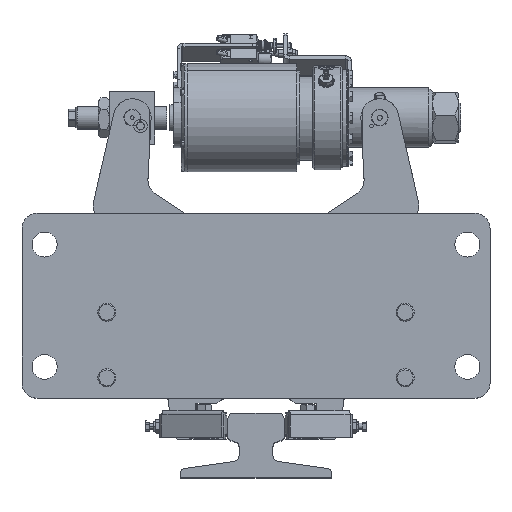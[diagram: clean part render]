
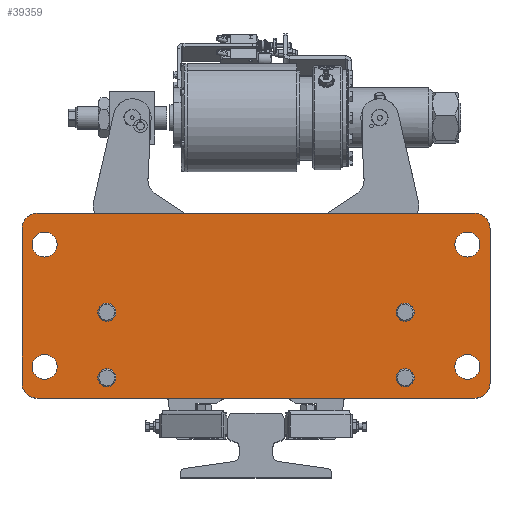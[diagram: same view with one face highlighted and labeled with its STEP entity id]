
A CAD part, top view. The second image highlights one B-rep face of the part: STEP entity #39359.
In plain terms, the highlighted planar face has unit normal (0, 0, 1).
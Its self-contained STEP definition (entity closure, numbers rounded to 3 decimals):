
#38417=DIRECTION('',(-1.,0.,0.));
#38418=VECTOR('',#38417,580.);
#38419=CARTESIAN_POINT('',(290.,0.,45.));
#38420=LINE('',#38419,#38418);
#38424=CARTESIAN_POINT('',(290.,225.,45.));
#38425=DIRECTION('',(0.,0.,1.));
#38426=DIRECTION('',(1.,0.,0.));
#38427=AXIS2_PLACEMENT_3D('',#38424,#38425,#38426);
#38432=CARTESIAN_POINT('',(290.,20.,45.));
#38433=DIRECTION('',(0.,0.,1.));
#38434=DIRECTION('',(0.,-1.,0.));
#38435=AXIS2_PLACEMENT_3D('',#38432,#38433,#38434);
#38440=CARTESIAN_POINT('',(-290.,20.,45.));
#38441=DIRECTION('',(0.,0.,1.));
#38442=DIRECTION('',(-1.,0.,0.));
#38443=AXIS2_PLACEMENT_3D('',#38440,#38441,#38442);
#38448=CARTESIAN_POINT('',(-290.,225.,45.));
#38449=DIRECTION('',(0.,0.,1.));
#38450=DIRECTION('',(0.,1.,0.));
#38451=AXIS2_PLACEMENT_3D('',#38448,#38449,#38450);
#38456=CARTESIAN_POINT('',(197.5,27.,45.));
#38457=DIRECTION('',(0.,0.,-1.));
#38458=DIRECTION('',(-1.,0.,0.));
#38459=AXIS2_PLACEMENT_3D('',#38456,#38457,#38458);
#38464=CARTESIAN_POINT('',(197.5,27.,45.));
#38465=DIRECTION('',(0.,0.,-1.));
#38466=DIRECTION('',(1.,0.,0.));
#38467=AXIS2_PLACEMENT_3D('',#38464,#38465,#38466);
#38472=CARTESIAN_POINT('',(197.5,114.,45.));
#38473=DIRECTION('',(0.,0.,-1.));
#38474=DIRECTION('',(-1.,0.,0.));
#38475=AXIS2_PLACEMENT_3D('',#38472,#38473,#38474);
#38480=CARTESIAN_POINT('',(197.5,114.,45.));
#38481=DIRECTION('',(0.,0.,-1.));
#38482=DIRECTION('',(1.,0.,0.));
#38483=AXIS2_PLACEMENT_3D('',#38480,#38481,#38482);
#38488=CARTESIAN_POINT('',(-197.5,27.,45.));
#38489=DIRECTION('',(0.,0.,-1.));
#38490=DIRECTION('',(-1.,0.,0.));
#38491=AXIS2_PLACEMENT_3D('',#38488,#38489,#38490);
#38496=CARTESIAN_POINT('',(-197.5,27.,45.));
#38497=DIRECTION('',(0.,0.,-1.));
#38498=DIRECTION('',(1.,0.,0.));
#38499=AXIS2_PLACEMENT_3D('',#38496,#38497,#38498);
#38504=CARTESIAN_POINT('',(-197.5,114.,45.));
#38505=DIRECTION('',(0.,0.,-1.));
#38506=DIRECTION('',(-1.,0.,0.));
#38507=AXIS2_PLACEMENT_3D('',#38504,#38505,#38506);
#38512=CARTESIAN_POINT('',(-197.5,114.,45.));
#38513=DIRECTION('',(0.,0.,-1.));
#38514=DIRECTION('',(1.,0.,0.));
#38515=AXIS2_PLACEMENT_3D('',#38512,#38513,#38514);
#38520=CARTESIAN_POINT('',(280.,41.5,45.));
#38521=DIRECTION('',(0.,0.,-1.));
#38522=DIRECTION('',(1.,0.,0.));
#38523=AXIS2_PLACEMENT_3D('',#38520,#38521,#38522);
#38528=CARTESIAN_POINT('',(280.,41.5,45.));
#38529=DIRECTION('',(0.,0.,-1.));
#38530=DIRECTION('',(-1.,0.,0.));
#38531=AXIS2_PLACEMENT_3D('',#38528,#38529,#38530);
#38536=CARTESIAN_POINT('',(-280.,41.5,45.));
#38537=DIRECTION('',(0.,0.,-1.));
#38538=DIRECTION('',(1.,0.,0.));
#38539=AXIS2_PLACEMENT_3D('',#38536,#38537,#38538);
#38544=CARTESIAN_POINT('',(-280.,41.5,45.));
#38545=DIRECTION('',(0.,0.,-1.));
#38546=DIRECTION('',(-1.,0.,0.));
#38547=AXIS2_PLACEMENT_3D('',#38544,#38545,#38546);
#38552=CARTESIAN_POINT('',(-280.,203.5,45.));
#38553=DIRECTION('',(0.,0.,-1.));
#38554=DIRECTION('',(1.,0.,0.));
#38555=AXIS2_PLACEMENT_3D('',#38552,#38553,#38554);
#38560=CARTESIAN_POINT('',(-280.,203.5,45.));
#38561=DIRECTION('',(0.,0.,-1.));
#38562=DIRECTION('',(-1.,0.,0.));
#38563=AXIS2_PLACEMENT_3D('',#38560,#38561,#38562);
#38568=CARTESIAN_POINT('',(280.,203.5,45.));
#38569=DIRECTION('',(0.,0.,-1.));
#38570=DIRECTION('',(1.,0.,0.));
#38571=AXIS2_PLACEMENT_3D('',#38568,#38569,#38570);
#38576=CARTESIAN_POINT('',(280.,203.5,45.));
#38577=DIRECTION('',(0.,0.,-1.));
#38578=DIRECTION('',(-1.,0.,0.));
#38579=AXIS2_PLACEMENT_3D('',#38576,#38577,#38578);
#38584=DIRECTION('',(1.,0.,0.));
#38585=VECTOR('',#38584,580.);
#38586=CARTESIAN_POINT('',(-290.,245.,45.));
#38587=LINE('',#38586,#38585);
#38843=DIRECTION('',(0.,1.,0.));
#38844=VECTOR('',#38843,205.);
#38845=CARTESIAN_POINT('',(-310.,20.,45.));
#38846=LINE('',#38845,#38844);
#38892=DIRECTION('',(0.,-1.,0.));
#38893=VECTOR('',#38892,205.);
#38894=CARTESIAN_POINT('',(310.,225.,45.));
#38895=LINE('',#38894,#38893);
#39165=CARTESIAN_POINT('',(-263.5,41.5,45.));
#39166=CARTESIAN_POINT('',(-296.5,41.5,45.));
#39167=VERTEX_POINT('',#39165);
#39168=VERTEX_POINT('',#39166);
#39179=CARTESIAN_POINT('',(296.5,203.5,45.));
#39180=CARTESIAN_POINT('',(263.5,203.5,45.));
#39181=VERTEX_POINT('',#39179);
#39182=VERTEX_POINT('',#39180);
#39192=CARTESIAN_POINT('',(185.5,114.,45.));
#39194=VERTEX_POINT('',#39192);
#39199=CARTESIAN_POINT('',(-310.,20.,45.));
#39200=CARTESIAN_POINT('',(-310.,225.,45.));
#39201=VERTEX_POINT('',#39199);
#39202=VERTEX_POINT('',#39200);
#39203=CARTESIAN_POINT('',(290.,0.,45.));
#39204=CARTESIAN_POINT('',(-290.,0.,45.));
#39205=VERTEX_POINT('',#39203);
#39206=VERTEX_POINT('',#39204);
#39213=CARTESIAN_POINT('',(310.,225.,45.));
#39214=CARTESIAN_POINT('',(290.,245.,45.));
#39215=VERTEX_POINT('',#39213);
#39216=VERTEX_POINT('',#39214);
#39217=CARTESIAN_POINT('',(-209.5,27.,45.));
#39218=CARTESIAN_POINT('',(-185.5,27.,45.));
#39219=VERTEX_POINT('',#39217);
#39220=VERTEX_POINT('',#39218);
#39223=CARTESIAN_POINT('',(-209.5,114.,45.));
#39224=VERTEX_POINT('',#39223);
#39225=CARTESIAN_POINT('',(-185.5,114.,45.));
#39226=VERTEX_POINT('',#39225);
#39232=CARTESIAN_POINT('',(310.,20.,45.));
#39234=VERTEX_POINT('',#39232);
#39235=CARTESIAN_POINT('',(-296.5,203.5,45.));
#39236=VERTEX_POINT('',#39235);
#39237=CARTESIAN_POINT('',(185.5,27.,45.));
#39238=VERTEX_POINT('',#39237);
#39239=CARTESIAN_POINT('',(209.5,114.,45.));
#39240=VERTEX_POINT('',#39239);
#39249=CARTESIAN_POINT('',(296.5,41.5,45.));
#39250=CARTESIAN_POINT('',(263.5,41.5,45.));
#39251=VERTEX_POINT('',#39249);
#39252=VERTEX_POINT('',#39250);
#39253=CARTESIAN_POINT('',(-290.,245.,45.));
#39254=VERTEX_POINT('',#39253);
#39255=CARTESIAN_POINT('',(209.5,27.,45.));
#39256=VERTEX_POINT('',#39255);
#39263=CARTESIAN_POINT('',(-263.5,203.5,45.));
#39264=VERTEX_POINT('',#39263);
#39289=CARTESIAN_POINT('',(0.,0.,45.));
#39290=DIRECTION('',(0.,0.,1.));
#39291=DIRECTION('',(1.,0.,0.));
#39292=AXIS2_PLACEMENT_3D('',#39289,#39290,#39291);
#39293=PLANE('',#39292);
#39295=ORIENTED_EDGE('',*,*,#39294,.T.);
#39297=ORIENTED_EDGE('',*,*,#39296,.F.);
#39299=ORIENTED_EDGE('',*,*,#39298,.T.);
#39301=ORIENTED_EDGE('',*,*,#39300,.F.);
#39302=ORIENTED_EDGE('',*,*,#39278,.T.);
#39304=ORIENTED_EDGE('',*,*,#39303,.F.);
#39306=ORIENTED_EDGE('',*,*,#39305,.T.);
#39308=ORIENTED_EDGE('',*,*,#39307,.F.);
#39309=EDGE_LOOP('',(#39295,#39297,#39299,#39301,#39302,#39304,#39306,#39308));
#39310=FACE_OUTER_BOUND('',#39309,.F.);
#39312=ORIENTED_EDGE('',*,*,#39311,.F.);
#39314=ORIENTED_EDGE('',*,*,#39313,.F.);
#39315=EDGE_LOOP('',(#39312,#39314));
#39316=FACE_BOUND('',#39315,.F.);
#39318=ORIENTED_EDGE('',*,*,#39317,.F.);
#39320=ORIENTED_EDGE('',*,*,#39319,.F.);
#39321=EDGE_LOOP('',(#39318,#39320));
#39322=FACE_BOUND('',#39321,.F.);
#39324=ORIENTED_EDGE('',*,*,#39323,.F.);
#39326=ORIENTED_EDGE('',*,*,#39325,.F.);
#39327=EDGE_LOOP('',(#39324,#39326));
#39328=FACE_BOUND('',#39327,.F.);
#39330=ORIENTED_EDGE('',*,*,#39329,.F.);
#39332=ORIENTED_EDGE('',*,*,#39331,.F.);
#39333=EDGE_LOOP('',(#39330,#39332));
#39334=FACE_BOUND('',#39333,.F.);
#39336=ORIENTED_EDGE('',*,*,#39335,.F.);
#39338=ORIENTED_EDGE('',*,*,#39337,.F.);
#39339=EDGE_LOOP('',(#39336,#39338));
#39340=FACE_BOUND('',#39339,.F.);
#39342=ORIENTED_EDGE('',*,*,#39341,.F.);
#39344=ORIENTED_EDGE('',*,*,#39343,.F.);
#39345=EDGE_LOOP('',(#39342,#39344));
#39346=FACE_BOUND('',#39345,.F.);
#39348=ORIENTED_EDGE('',*,*,#39347,.F.);
#39350=ORIENTED_EDGE('',*,*,#39349,.F.);
#39351=EDGE_LOOP('',(#39348,#39350));
#39352=FACE_BOUND('',#39351,.F.);
#39354=ORIENTED_EDGE('',*,*,#39353,.F.);
#39356=ORIENTED_EDGE('',*,*,#39355,.F.);
#39357=EDGE_LOOP('',(#39354,#39356));
#39358=FACE_BOUND('',#39357,.F.);
#39359=ADVANCED_FACE('',(#39310,#39316,#39322,#39328,#39334,#39340,#39346,
#39352,#39358),#39293,.T.);
#38428=CIRCLE('',#38427,20.);
#38436=CIRCLE('',#38435,20.);
#38444=CIRCLE('',#38443,20.);
#38452=CIRCLE('',#38451,20.);
#38460=CIRCLE('',#38459,12.);
#38468=CIRCLE('',#38467,12.);
#38476=CIRCLE('',#38475,12.);
#38484=CIRCLE('',#38483,12.);
#38492=CIRCLE('',#38491,12.);
#38500=CIRCLE('',#38499,12.);
#38508=CIRCLE('',#38507,12.);
#38516=CIRCLE('',#38515,12.);
#38524=CIRCLE('',#38523,16.5);
#38532=CIRCLE('',#38531,16.5);
#38540=CIRCLE('',#38539,16.5);
#38548=CIRCLE('',#38547,16.5);
#38556=CIRCLE('',#38555,16.5);
#38564=CIRCLE('',#38563,16.5);
#38572=CIRCLE('',#38571,16.5);
#38580=CIRCLE('',#38579,16.5);
#39278=EDGE_CURVE('',#39205,#39206,#38420,.T.);
#39294=EDGE_CURVE('',#39254,#39216,#38587,.T.);
#39296=EDGE_CURVE('',#39215,#39216,#38428,.T.);
#39298=EDGE_CURVE('',#39215,#39234,#38895,.T.);
#39300=EDGE_CURVE('',#39205,#39234,#38436,.T.);
#39303=EDGE_CURVE('',#39201,#39206,#38444,.T.);
#39305=EDGE_CURVE('',#39201,#39202,#38846,.T.);
#39307=EDGE_CURVE('',#39254,#39202,#38452,.T.);
#39311=EDGE_CURVE('',#39238,#39256,#38460,.T.);
#39313=EDGE_CURVE('',#39256,#39238,#38468,.T.);
#39317=EDGE_CURVE('',#39194,#39240,#38476,.T.);
#39319=EDGE_CURVE('',#39240,#39194,#38484,.T.);
#39323=EDGE_CURVE('',#39219,#39220,#38492,.T.);
#39325=EDGE_CURVE('',#39220,#39219,#38500,.T.);
#39329=EDGE_CURVE('',#39224,#39226,#38508,.T.);
#39331=EDGE_CURVE('',#39226,#39224,#38516,.T.);
#39335=EDGE_CURVE('',#39251,#39252,#38524,.T.);
#39337=EDGE_CURVE('',#39252,#39251,#38532,.T.);
#39341=EDGE_CURVE('',#39167,#39168,#38540,.T.);
#39343=EDGE_CURVE('',#39168,#39167,#38548,.T.);
#39347=EDGE_CURVE('',#39264,#39236,#38556,.T.);
#39349=EDGE_CURVE('',#39236,#39264,#38564,.T.);
#39353=EDGE_CURVE('',#39181,#39182,#38572,.T.);
#39355=EDGE_CURVE('',#39182,#39181,#38580,.T.);
